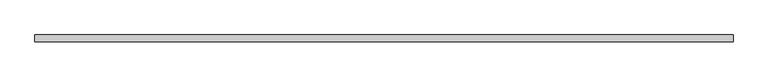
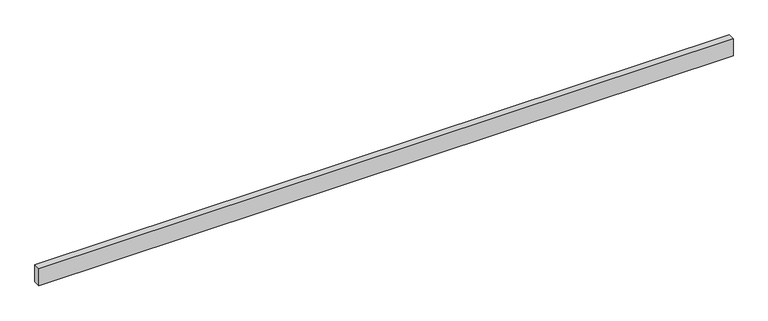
"""IFC4 building model written with IfcOpenShell, lengths in millimetres: proxy geometry."""

from ifc_helpers import new_model, si_unit, frame, origin, place, context, project, spatial, polyline, outline, extrude, source, transform, mapped, element, save


def generic_models_f22d5577(model_context):
    return source(origin(), model_context, "Body", "SweptSolid", [
        extrude(outline(polyline([(-100.0, 100.0), (19696.8086759, 100.0), (19696.8086759, -100.0), (-100.0, -100.0), (-100.0, 100.0)])), frame((0.0, 0.0, 3130.0), z_axis=(0.0, 0.0, 1.0), x_axis=(1.0, 0.0, 0.0)), (0.0, 0.0, 1.0), 510.0),
    ])


if __name__ == "__main__":
    model = new_model("IFC4")
    model_context = context("Model", 3, world=origin())
    ifc_project = project(units=[si_unit("LENGTHUNIT", "METRE", prefix="MILLI")], contexts=[model_context])
    site = spatial("IfcSite", under=ifc_project)
    building = spatial("IfcBuilding", under=site)
    placement = place(None, origin())
    generic_models_shape = generic_models_f22d5577(model_context)
    element("IfcBuildingElementProxy", 1, Name="Generic Models", at=placement, inside=building, context=model_context, shape_type="MappedRepresentation", body=[
        mapped(generic_models_shape, transform((0.0, 0.0, 0.0), x_axis=(1.0, 0.0, 0.0), y_axis=(0.0, 1.0, 0.0), z_axis=(0.0, 0.0, 1.0))),
    ])
    save(model, "model.ifc")
